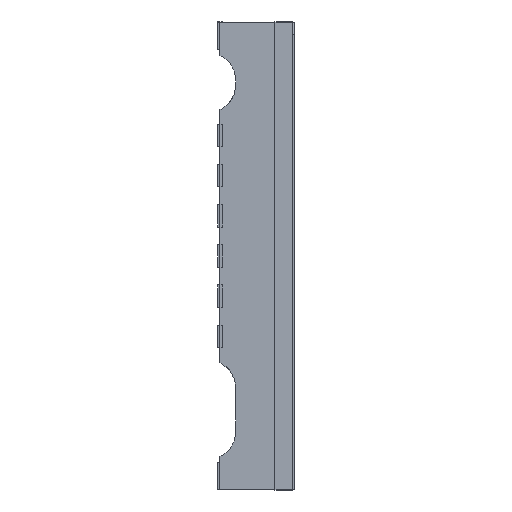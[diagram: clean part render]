
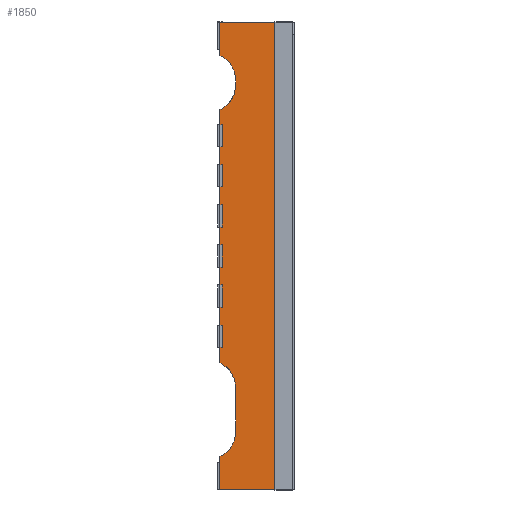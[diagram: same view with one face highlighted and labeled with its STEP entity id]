
A CAD part, left-side view. The second image highlights one B-rep face of the part: STEP entity #1850.
In plain terms, the highlighted planar face has unit normal (-1, 0, 0).
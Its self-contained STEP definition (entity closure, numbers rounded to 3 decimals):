
#329 = DIRECTION ( 'NONE',  ( 1., 0., 0. ) ) ;
#353 = LINE ( 'NONE', #13035, #13580 ) ;
#362 = AXIS2_PLACEMENT_3D ( 'NONE', #5150, #329, #1604 ) ;
#659 = LINE ( 'NONE', #9654, #11555 ) ;
#773 = VERTEX_POINT ( 'NONE', #10858 ) ;
#811 = VERTEX_POINT ( 'NONE', #9732 ) ;
#991 = DIRECTION ( 'NONE',  ( 0., 0., -1. ) ) ;
#1049 = CARTESIAN_POINT ( 'NONE',  ( -11.5, 1.77, -7.909 ) ) ;
#1485 = DIRECTION ( 'NONE',  ( 0., 0., 1. ) ) ;
#1604 = DIRECTION ( 'NONE',  ( 0., 0., -1. ) ) ;
#1729 = EDGE_CURVE ( 'NONE', #2260, #7481, #3798, .T. ) ;
#1800 = CIRCLE ( 'NONE', #362, 1.2 ) ;
#1850 = ADVANCED_FACE ( 'NONE', ( #11764 ), #2556, .F. ) ;
#1996 = VERTEX_POINT ( 'NONE', #1049 ) ;
#2157 = CARTESIAN_POINT ( 'NONE',  ( -11.5, 2.47, 9. ) ) ;
#2260 = VERTEX_POINT ( 'NONE', #5938 ) ;
#2313 = ORIENTED_EDGE ( 'NONE', *, *, #11923, .T. ) ;
#2452 = EDGE_CURVE ( 'NONE', #2260, #10316, #659, .T. ) ;
#2490 = DIRECTION ( 'NONE',  ( 1., 0., 0. ) ) ;
#2556 = PLANE ( 'NONE',  #9140 ) ;
#2928 = DIRECTION ( 'NONE',  ( 0., 0., 1. ) ) ;
#2959 = CARTESIAN_POINT ( 'NONE',  ( -11.5, 2.47, -10.5 ) ) ;
#3174 = DIRECTION ( 'NONE',  ( 1., 0., 0. ) ) ;
#3223 = DIRECTION ( 'NONE',  ( 1., 0., 0. ) ) ;
#3293 = CARTESIAN_POINT ( 'NONE',  ( -11.5, 2.97, -5.891 ) ) ;
#3495 = DIRECTION ( 'NONE',  ( 0., -1., 0. ) ) ;
#3605 = VERTEX_POINT ( 'NONE', #13804 ) ;
#3723 = ORIENTED_EDGE ( 'NONE', *, *, #11420, .F. ) ;
#3734 = VECTOR ( 'NONE', #11405, 1000. ) ;
#3798 = CIRCLE ( 'NONE', #11994, 1.2 ) ;
#3829 = AXIS2_PLACEMENT_3D ( 'NONE', #10687, #9492, #8413 ) ;
#3916 = CARTESIAN_POINT ( 'NONE',  ( -11.5, 2.47, -9. ) ) ;
#3935 = ORIENTED_EDGE ( 'NONE', *, *, #12568, .F. ) ;
#4030 = EDGE_CURVE ( 'NONE', #13613, #7424, #10296, .T. ) ;
#4072 = CIRCLE ( 'NONE', #3829, 1.2 ) ;
#4350 = VECTOR ( 'NONE', #13128, 1000. ) ;
#4364 = VECTOR ( 'NONE', #11134, 1000. ) ;
#4468 = CARTESIAN_POINT ( 'NONE',  ( -11.5, 2.47, -4.8 ) ) ;
#4493 = VERTEX_POINT ( 'NONE', #2157 ) ;
#4519 = DIRECTION ( 'NONE',  ( 0., 0., -1. ) ) ;
#4743 = CARTESIAN_POINT ( 'NONE',  ( -11.5, 2.47, 6.56 ) ) ;
#4961 = CARTESIAN_POINT ( 'NONE',  ( -11.5, 2.47, -10.5 ) ) ;
#4993 = LINE ( 'NONE', #2959, #10593 ) ;
#5145 = DIRECTION ( 'NONE',  ( 0., 0., 1. ) ) ;
#5150 = CARTESIAN_POINT ( 'NONE',  ( -11.5, 2.97, 7.909 ) ) ;
#5456 = ORIENTED_EDGE ( 'NONE', *, *, #5515, .T. ) ;
#5515 = EDGE_CURVE ( 'NONE', #4493, #10316, #1800, .T. ) ;
#5814 = LINE ( 'NONE', #6791, #3734 ) ;
#5843 = ORIENTED_EDGE ( 'NONE', *, *, #1729, .T. ) ;
#5938 = CARTESIAN_POINT ( 'NONE',  ( -11.5, 1.77, 7.651 ) ) ;
#5971 = VERTEX_POINT ( 'NONE', #4468 ) ;
#6033 = EDGE_CURVE ( 'NONE', #7424, #3605, #5814, .T. ) ;
#6791 = CARTESIAN_POINT ( 'NONE',  ( -11.5, 0., -10.5 ) ) ;
#7278 = ORIENTED_EDGE ( 'NONE', *, *, #13087, .F. ) ;
#7302 = LINE ( 'NONE', #4961, #4350 ) ;
#7424 = VERTEX_POINT ( 'NONE', #13499 ) ;
#7481 = VERTEX_POINT ( 'NONE', #4743 ) ;
#7537 = EDGE_CURVE ( 'NONE', #1996, #773, #353, .T. ) ;
#8090 = VERTEX_POINT ( 'NONE', #3916 ) ;
#8374 = CARTESIAN_POINT ( 'NONE',  ( -11.5, 1.77, 7.909 ) ) ;
#8413 = DIRECTION ( 'NONE',  ( 0., 0., -1. ) ) ;
#8445 = DIRECTION ( 'NONE',  ( 0., 0., -1. ) ) ;
#8657 = VECTOR ( 'NONE', #9509, 1000. ) ;
#9140 = AXIS2_PLACEMENT_3D ( 'NONE', #13055, #2490, #8445 ) ;
#9492 = DIRECTION ( 'NONE',  ( 1., 0., 0. ) ) ;
#9509 = DIRECTION ( 'NONE',  ( 0., -1., 0. ) ) ;
#9578 = LINE ( 'NONE', #9727, #8657 ) ;
#9654 = CARTESIAN_POINT ( 'NONE',  ( -11.5, 1.77, 6.56 ) ) ;
#9663 = EDGE_CURVE ( 'NONE', #1996, #8090, #4072, .T. ) ;
#9727 = CARTESIAN_POINT ( 'NONE',  ( -11.5, 2.47, 10.5 ) ) ;
#9732 = CARTESIAN_POINT ( 'NONE',  ( -11.5, 2.47, 10.5 ) ) ;
#9932 = LINE ( 'NONE', #10082, #4364 ) ;
#10082 = CARTESIAN_POINT ( 'NONE',  ( -11.5, 2.47, -10.5 ) ) ;
#10296 = LINE ( 'NONE', #11646, #11323 ) ;
#10316 = VERTEX_POINT ( 'NONE', #8374 ) ;
#10353 = ORIENTED_EDGE ( 'NONE', *, *, #4030, .T. ) ;
#10452 = ORIENTED_EDGE ( 'NONE', *, *, #2452, .F. ) ;
#10593 = VECTOR ( 'NONE', #5145, 1000. ) ;
#10687 = CARTESIAN_POINT ( 'NONE',  ( -11.5, 2.97, -7.909 ) ) ;
#10858 = CARTESIAN_POINT ( 'NONE',  ( -11.5, 1.77, -5.891 ) ) ;
#10866 = AXIS2_PLACEMENT_3D ( 'NONE', #3293, #3223, #4519 ) ;
#11134 = DIRECTION ( 'NONE',  ( 0., 0., 1. ) ) ;
#11175 = CARTESIAN_POINT ( 'NONE',  ( -11.5, 2.47, -10.5 ) ) ;
#11300 = EDGE_LOOP ( 'NONE', ( #13966, #12681, #14771, #10353, #12713, #7278, #3723, #5456, #10452, #5843, #3935, #2313 ) ) ;
#11323 = VECTOR ( 'NONE', #3495, 1000. ) ;
#11405 = DIRECTION ( 'NONE',  ( 0., 0., 1. ) ) ;
#11420 = EDGE_CURVE ( 'NONE', #4493, #811, #9932, .T. ) ;
#11554 = CARTESIAN_POINT ( 'NONE',  ( -11.5, 2.97, 7.651 ) ) ;
#11555 = VECTOR ( 'NONE', #2928, 1000. ) ;
#11646 = CARTESIAN_POINT ( 'NONE',  ( -11.5, 2.47, -10.5 ) ) ;
#11764 = FACE_OUTER_BOUND ( 'NONE', #11300, .T. ) ;
#11923 = EDGE_CURVE ( 'NONE', #5971, #773, #12312, .T. ) ;
#11994 = AXIS2_PLACEMENT_3D ( 'NONE', #11554, #3174, #991 ) ;
#12312 = CIRCLE ( 'NONE', #10866, 1.2 ) ;
#12568 = EDGE_CURVE ( 'NONE', #5971, #7481, #4993, .T. ) ;
#12681 = ORIENTED_EDGE ( 'NONE', *, *, #9663, .T. ) ;
#12713 = ORIENTED_EDGE ( 'NONE', *, *, #6033, .T. ) ;
#13035 = CARTESIAN_POINT ( 'NONE',  ( -11.5, 1.77, -9. ) ) ;
#13055 = CARTESIAN_POINT ( 'NONE',  ( -11.5, 2.47, -10.5 ) ) ;
#13087 = EDGE_CURVE ( 'NONE', #811, #3605, #9578, .T. ) ;
#13128 = DIRECTION ( 'NONE',  ( 0., 0., 1. ) ) ;
#13499 = CARTESIAN_POINT ( 'NONE',  ( -11.5, 0., -10.5 ) ) ;
#13580 = VECTOR ( 'NONE', #1485, 1000. ) ;
#13613 = VERTEX_POINT ( 'NONE', #11175 ) ;
#13736 = EDGE_CURVE ( 'NONE', #13613, #8090, #7302, .T. ) ;
#13804 = CARTESIAN_POINT ( 'NONE',  ( -11.5, 0., 10.5 ) ) ;
#13966 = ORIENTED_EDGE ( 'NONE', *, *, #7537, .F. ) ;
#14771 = ORIENTED_EDGE ( 'NONE', *, *, #13736, .F. ) ;
